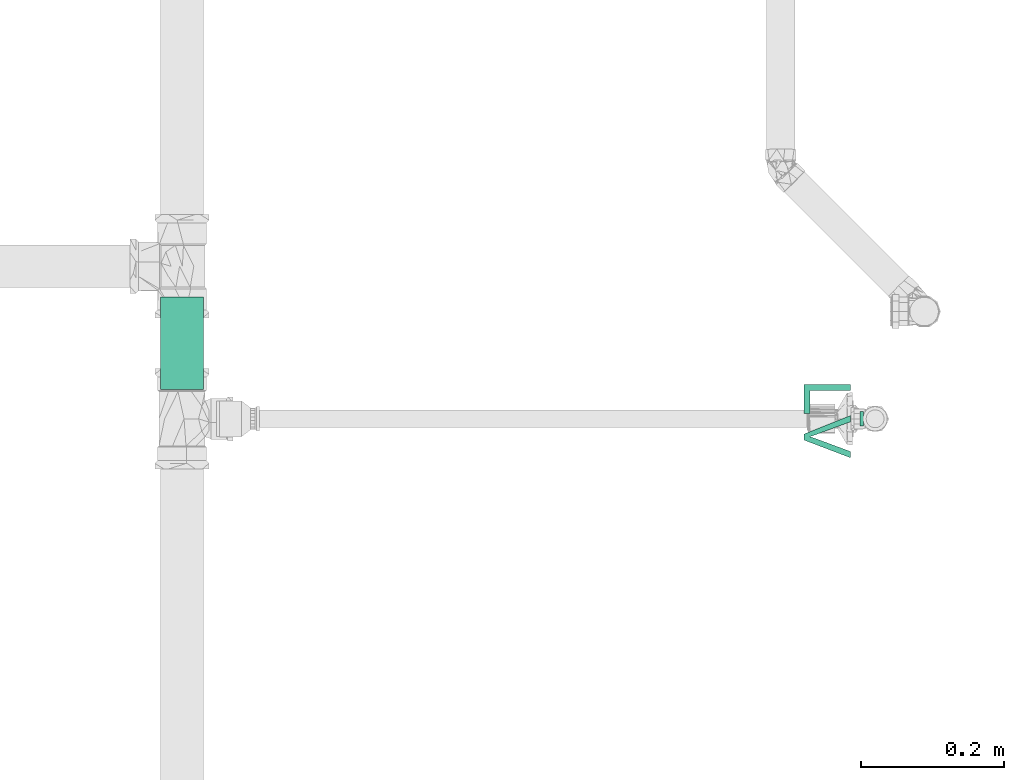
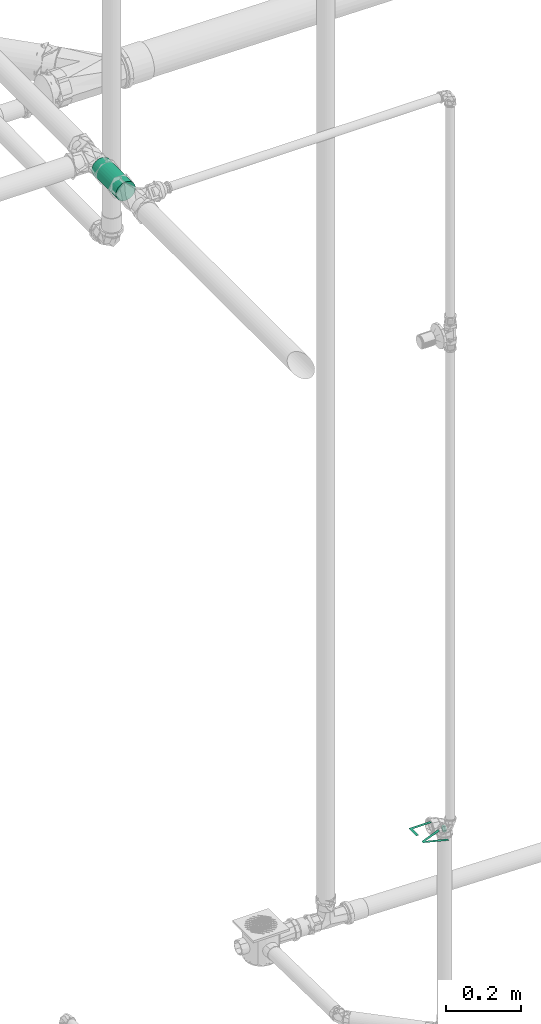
# One storey, part 266 of 589: 1 flow segment, 1 flow terminal.
"""IFC2X3 building model written with IfcOpenShell, lengths in millimetres."""

from ifc_helpers import new_model, entity, si_unit, converted_unit, derived_unit, direction, frame, frame_2d, origin, place, context, subcontext, project, spatial, circle, extrude, face_set, surface_model, source, transform, mapped, material, type_object, type_shapes, element, save


model = new_model("IFC2X3")

# Units and contexts
model_context = context("Model", 3, precision=0.01, world=origin(), true_north=direction((6.123031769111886e-17, 1.0)))
body_context = subcontext(model_context, "Body", "Model", "MODEL_VIEW")
ifc_project = project(units=[si_unit("LENGTHUNIT", "METRE", prefix="MILLI"), si_unit("AREAUNIT", "SQUARE_METRE"), si_unit("VOLUMEUNIT", "CUBIC_METRE"), converted_unit("PLANEANGLEUNIT", "DEGREE", entity("IfcRatioMeasure", 0.017453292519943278), si_unit("PLANEANGLEUNIT", "RADIAN"), dimensions=[0, 0, 0, 0, 0, 0, 0]), si_unit("MASSUNIT", "GRAM", prefix="KILO"), derived_unit("MASSDENSITYUNIT", [(si_unit("MASSUNIT", "GRAM", prefix="KILO"), 1), (si_unit("LENGTHUNIT", "METRE"), -3)]), derived_unit("IONCONCENTRATIONUNIT", [(si_unit("MASSUNIT", "GRAM", prefix="KILO"), 1), (si_unit("LENGTHUNIT", "METRE"), -3)]), derived_unit("MOMENTOFINERTIAUNIT", [(si_unit("LENGTHUNIT", "METRE"), 4)]), si_unit("TIMEUNIT", "SECOND"), si_unit("FREQUENCYUNIT", "HERTZ"), si_unit("THERMODYNAMICTEMPERATUREUNIT", "DEGREE_CELSIUS"), derived_unit("THERMALTRANSMITTANCEUNIT", [(si_unit("MASSUNIT", "GRAM", prefix="KILO"), 1), (si_unit("THERMODYNAMICTEMPERATUREUNIT", "KELVIN"), -1), (si_unit("TIMEUNIT", "SECOND"), -3)]), derived_unit("THERMALCONDUCTANCEUNIT", [(si_unit("MASSUNIT", "GRAM", prefix="KILO"), 1), (si_unit("THERMODYNAMICTEMPERATUREUNIT", "KELVIN"), -1), (si_unit("TIMEUNIT", "SECOND"), -3), (si_unit("LENGTHUNIT", "METRE"), 1)]), derived_unit("VOLUMETRICFLOWRATEUNIT", [(si_unit("LENGTHUNIT", "METRE"), 3), (si_unit("TIMEUNIT", "SECOND"), -1)]), derived_unit("MASSFLOWRATEUNIT", [(si_unit("MASSUNIT", "GRAM", prefix="KILO"), 1), (si_unit("TIMEUNIT", "SECOND"), -1)]), derived_unit("ROTATIONALFREQUENCYUNIT", [(si_unit("TIMEUNIT", "SECOND"), -1)]), si_unit("ELECTRICCURRENTUNIT", "AMPERE"), si_unit("ELECTRICVOLTAGEUNIT", "VOLT"), si_unit("POWERUNIT", "WATT"), si_unit("FORCEUNIT", "NEWTON", prefix="KILO"), si_unit("ILLUMINANCEUNIT", "LUX"), si_unit("LUMINOUSFLUXUNIT", "LUMEN"), si_unit("LUMINOUSINTENSITYUNIT", "CANDELA"), derived_unit("USERDEFINED", [(si_unit("MASSUNIT", "GRAM", prefix="KILO"), -1), (si_unit("LENGTHUNIT", "METRE"), -2), (si_unit("TIMEUNIT", "SECOND"), 3), (si_unit("LUMINOUSFLUXUNIT", "LUMEN"), 1)]), derived_unit("USERDEFINED", [(si_unit("MASSUNIT", "GRAM", prefix="KILO"), 1), (si_unit("TIMEUNIT", "SECOND"), -3), (si_unit("LENGTHUNIT", "METRE"), 3), (si_unit("ELECTRICCURRENTUNIT", "AMPERE"), -2)]), derived_unit("SOUNDPOWERUNIT", [(si_unit("MASSUNIT", "GRAM", prefix="KILO"), 1), (si_unit("TIMEUNIT", "SECOND"), -3), (si_unit("LENGTHUNIT", "METRE"), 2)]), derived_unit("SOUNDPRESSUREUNIT", [(si_unit("MASSUNIT", "GRAM", prefix="KILO"), 1), (si_unit("LENGTHUNIT", "METRE"), -1), (si_unit("TIMEUNIT", "SECOND"), -2)]), derived_unit("LINEARVELOCITYUNIT", [(si_unit("LENGTHUNIT", "METRE"), 1), (si_unit("TIMEUNIT", "SECOND"), -1)]), si_unit("PRESSUREUNIT", "PASCAL"), derived_unit("USERDEFINED", [(si_unit("MASSUNIT", "GRAM", prefix="KILO"), 1), (si_unit("LENGTHUNIT", "METRE"), -2), (si_unit("TIMEUNIT", "SECOND"), -2)]), derived_unit("LINEARFORCEUNIT", [(si_unit("MASSUNIT", "GRAM", prefix="KILO"), 1), (si_unit("TIMEUNIT", "SECOND"), -2)]), derived_unit("PLANARFORCEUNIT", [(si_unit("MASSUNIT", "GRAM", prefix="KILO"), 1), (si_unit("LENGTHUNIT", "METRE"), -1), (si_unit("TIMEUNIT", "SECOND"), -2)]), derived_unit("SPECIFICHEATCAPACITYUNIT", [(si_unit("THERMODYNAMICTEMPERATUREUNIT", "KELVIN"), -1), (si_unit("LENGTHUNIT", "METRE"), 2), (si_unit("TIMEUNIT", "SECOND"), -2)]), derived_unit("HEATINGVALUEUNIT", [(si_unit("LENGTHUNIT", "METRE"), 2), (si_unit("TIMEUNIT", "SECOND"), -2)]), derived_unit("VAPORPERMEABILITYUNIT", [(si_unit("LENGTHUNIT", "METRE"), -1), (si_unit("TIMEUNIT", "SECOND"), 1)]), derived_unit("DYNAMICVISCOSITYUNIT", [(si_unit("MASSUNIT", "GRAM", prefix="KILO"), 1), (si_unit("TIMEUNIT", "SECOND"), -1), (si_unit("LENGTHUNIT", "METRE"), -1)]), derived_unit("THERMALEXPANSIONCOEFFICIENTUNIT", [(si_unit("THERMODYNAMICTEMPERATUREUNIT", "KELVIN"), -1)]), derived_unit("MODULUSOFELASTICITYUNIT", [(si_unit("MASSUNIT", "GRAM", prefix="KILO"), 1), (si_unit("LENGTHUNIT", "METRE"), -1), (si_unit("TIMEUNIT", "SECOND"), -2)]), derived_unit("ISOTHERMALMOISTURECAPACITYUNIT", [(si_unit("LENGTHUNIT", "METRE"), 3), (si_unit("MASSUNIT", "GRAM", prefix="KILO"), -1)]), derived_unit("MOISTUREDIFFUSIVITYUNIT", [(si_unit("TIMEUNIT", "SECOND"), -1), (si_unit("LENGTHUNIT", "METRE"), 2)])], contexts=[model_context])

# Site, building, storey
site_placement = place(None, origin())
site = spatial("IfcSite", under=ifc_project, at=site_placement, Name="Default", CompositionType="ELEMENT")
building_placement = place(site_placement, origin())
building = spatial("IfcBuilding", under=site, at=building_placement, CompositionType="ELEMENT")
storey_placement = place(building_placement, frame((0.0, 0.0, 100.0)))
storey = spatial("IfcBuildingStorey", under=building, at=storey_placement, Name="TÉRREO", CompositionType="ELEMENT", Elevation=100.0)

# Flow segment
pipe_segment_type = type_object("IfcPipeSegmentType", Name="Tipos de tubos:PVC Marrom Soldável", PredefinedType="NOTDEFINED")
flow_segment_placement = place(storey_placement, origin())
element("IfcFlowSegment", 1, at=flow_segment_placement, inside=storey, type_object=pipe_segment_type, Name="Tipos de tubos:PVC Marrom Soldável", ObjectType="Tipos de tubos:PVC Marrom Soldável", context=body_context, shape_type="SweptSolid", body=[
    extrude(circle(Radius=30.0, at=frame_2d((0.0, -5.414335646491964e-13), x_axis=(1.0, 0.0))), frame((4045.7158682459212, 2251.970317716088, 2970.0), z_axis=(0.0, 1.0, 0.0), x_axis=(1.0, 0.0, 0.0)), (0.0, 0.0, 1.0), 129.18723979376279),
])

# Flow terminal
ifc_material = material(Name="<Unnamed>")
distribution_element_type = type_object("IfcDistributionElementType", Name="Hidráulica_Ponto de Utilização_Uso Provável_Rodrigo MEP:Lavatório LV (Peso 0,3) 60cm do Piso", material=ifc_material)
shared_shape = source(origin(), body_context, "Body", "SurfaceModel", [
    surface_model("IfcFaceBasedSurfaceModel", [(0.0, 0.0, 11.595272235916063), (40.81037599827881, 0.0, 11.595272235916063), (40.81037599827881, 8.162075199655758, 11.595272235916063), (8.162075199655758, 8.162075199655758, 11.595272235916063), (8.162075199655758, 65.2966015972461, 11.595272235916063), (0.0, 65.2966015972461, 11.595272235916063), (69.281989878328, 0.0, 11.595272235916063), (77.71507148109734, 0.0, 11.595272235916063), (102.59983590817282, 65.2966015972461, 11.595272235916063), (93.86386479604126, 65.2966015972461, 11.595272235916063), (76.4238056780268, 18.253078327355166, 11.595272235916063), (72.94854709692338, 7.651945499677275, 11.595272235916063), (69.42546385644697, 18.253078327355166, 11.595272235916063), (52.03322939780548, 65.2966015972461, 11.595272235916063), (43.29725828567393, 65.2966015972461, 11.595272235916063), (37.95219179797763, 78.06704158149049, 11.595272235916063), (38.292933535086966, 78.06704158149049, 14.18346268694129), (39.291937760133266, 78.06704158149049, 16.595272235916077), (40.88112398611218, 78.06704158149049, 18.666340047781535), (42.95219179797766, 78.06704158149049, 20.255526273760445), (45.36400134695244, 78.06704158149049, 21.254530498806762), (47.952191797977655, 78.06704158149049, 21.59527223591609), (50.54038224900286, 78.06704158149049, 21.254530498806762), (52.95219179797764, 78.06704158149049, 20.255526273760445), (55.023259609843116, 78.06704158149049, 18.666340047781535), (56.61244583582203, 78.06704158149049, 16.595272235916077), (57.61145006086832, 78.06704158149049, 14.18346268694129), (57.95219179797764, 78.06704158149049, 11.595272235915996), (57.6114500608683, 78.06704158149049, 9.007081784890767), (56.612445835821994, 78.06704158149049, 6.595272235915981), (55.02325960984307, 78.06704158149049, 4.524204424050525), (52.95219179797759, 78.06704158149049, 2.9350181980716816), (50.540382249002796, 78.06704158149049, 1.936013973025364), (47.95219179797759, 78.06704158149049, 1.5952722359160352), (45.36400134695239, 78.06704158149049, 1.936013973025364), (42.952191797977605, 78.06704158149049, 2.9350181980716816), (40.88112398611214, 78.06704158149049, 4.524204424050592), (39.29193776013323, 78.06704158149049, 6.595272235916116), (38.292933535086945, 78.06704158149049, 9.007081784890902), (37.95219179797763, 83.06704158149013, 11.595272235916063), (38.292933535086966, 83.06704158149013, 14.18346268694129), (39.291937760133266, 83.06704158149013, 16.595272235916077), (40.88112398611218, 83.06704158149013, 18.666340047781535), (42.95219179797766, 83.06704158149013, 20.255526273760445), (45.36400134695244, 83.06704158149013, 21.254530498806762), (47.952191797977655, 83.06704158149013, 21.59527223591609), (50.54038224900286, 83.06704158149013, 21.254530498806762), (52.95219179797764, 83.06704158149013, 20.255526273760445), (55.023259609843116, 83.06704158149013, 18.666340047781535), (56.61244583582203, 83.06704158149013, 16.595272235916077), (57.61145006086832, 83.06704158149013, 14.18346268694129), (57.95219179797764, 83.06704158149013, 11.595272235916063), (57.6114500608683, 83.06704158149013, 9.007081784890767), (56.612445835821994, 83.06704158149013, 6.595272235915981), (55.02325960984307, 83.06704158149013, 4.524204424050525), (52.95219179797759, 83.06704158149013, 2.9350181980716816), (50.540382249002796, 83.06704158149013, 1.936013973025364), (47.95219179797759, 83.06704158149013, 1.5952722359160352), (45.36400134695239, 83.06704158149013, 1.936013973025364), (42.952191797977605, 83.06704158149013, 2.9350181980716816), (40.88112398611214, 83.06704158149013, 4.524204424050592), (39.29193776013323, 83.06704158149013, 6.595272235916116), (38.292933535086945, 83.06704158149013, 9.007081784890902)], [face_set([[[0, 1, 2, 3, 4, 5]], [[6, 7, 8, 9, 10, 11, 12, 13, 14]]]), face_set([[[15, 16, 17, 18, 19, 20, 21, 22, 23, 24, 25, 26, 27, 28, 29, 30, 31, 32, 33, 34, 35, 36, 37, 38]], [[39, 40, 41, 42, 43, 44, 45, 46, 47, 48, 49, 50, 51, 52, 53, 54, 55, 56, 57, 58, 59, 60, 61, 62]], [[39, 62, 38, 15]], [[62, 61, 37, 38]], [[60, 59, 35, 36]], [[61, 60, 36, 37]], [[59, 58, 34, 35]], [[33, 34, 58, 57]], [[57, 56, 32, 33]], [[56, 55, 31, 32]], [[54, 53, 29, 30]], [[55, 54, 30, 31]], [[53, 52, 28, 29]], [[27, 28, 52, 51]], [[51, 50, 26, 27]], [[50, 49, 25, 26]], [[48, 47, 23, 24]], [[49, 48, 24, 25]], [[47, 46, 22, 23]], [[21, 22, 46, 45]], [[45, 44, 20, 21]], [[44, 43, 19, 20]], [[42, 41, 17, 18]], [[43, 42, 18, 19]], [[41, 40, 16, 17]], [[15, 16, 40, 39]]])]),
])
type_shapes(distribution_element_type, [shared_shape])
flow_terminal_placement = place(storey_placement, frame((4915.6059260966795, 2259.0225095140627, 588.4047277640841), z_axis=(0.0, 0.0, 1.0), x_axis=(0.0, -1.0, 0.0)))
element("IfcFlowTerminal", 2, at=flow_terminal_placement, inside=storey, type_object=distribution_element_type, material=ifc_material, Name="Hidráulica_Ponto de Utilização_Uso Provável_Rodrigo MEP:Lavatório LV (Peso 0,3) 60cm do Piso", ObjectType="Hidráulica_Ponto de Utilização_Uso Provável_Rodrigo MEP:Lavatório LV (Peso 0,3) 60cm do Piso", context=body_context, shape_type="MappedRepresentation", body=[
    mapped(shared_shape, transform((0.0, 0.0, 0.0), scale=1.0)),
])

save(model, "model.ifc")
